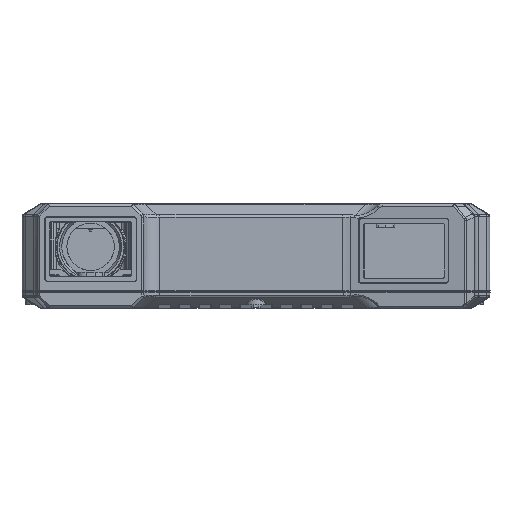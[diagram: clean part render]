
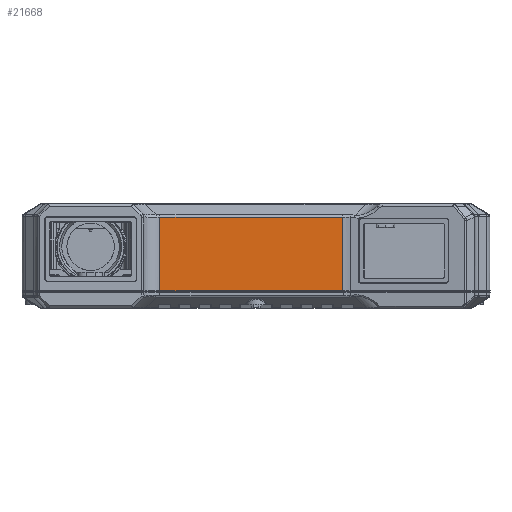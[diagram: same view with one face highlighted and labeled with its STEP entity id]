
A CAD part, left-side view. The second image highlights one B-rep face of the part: STEP entity #21668.
In plain terms, the highlighted planar face has unit normal (-1, 0, 0).
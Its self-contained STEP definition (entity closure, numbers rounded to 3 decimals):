
#3009=DIRECTION('',(0.,-1.,0.));
#3010=VECTOR('',#3009,80.708);
#3011=CARTESIAN_POINT('',(-26.998,-40.021,
-35.346));
#3012=LINE('',#3011,#3010);
#3013=DIRECTION('',(0.,0.,-1.));
#3014=VECTOR('',#3013,32.546);
#3015=CARTESIAN_POINT('',(-26.998,-40.021,
-2.8));
#3016=LINE('',#3015,#3014);
#3017=DIRECTION('',(0.,-1.,0.));
#3018=VECTOR('',#3017,80.707);
#3019=CARTESIAN_POINT('',(-26.998,-40.021,
-2.8));
#3020=LINE('',#3019,#3018);
#3021=DIRECTION('',(0.,0.,1.));
#3022=VECTOR('',#3021,32.552);
#3023=CARTESIAN_POINT('',(-26.998,-120.729,
-35.346));
#3024=LINE('',#3023,#3022);
#15724=CARTESIAN_POINT('',(-26.997,-120.728,
-2.794));
#15726=VERTEX_POINT('',#15724);
#15727=CARTESIAN_POINT('',(-26.998,-40.021,
-2.8));
#15728=VERTEX_POINT('',#15727);
#17247=CARTESIAN_POINT('',(-26.998,-120.729,
-35.346));
#17248=VERTEX_POINT('',#17247);
#17251=CARTESIAN_POINT('',(-26.998,-40.021,
-35.346));
#17252=VERTEX_POINT('',#17251);
#21654=CARTESIAN_POINT('',(-26.998,-32.95,-47.5));
#21655=DIRECTION('',(1.,0.,0.));
#21656=DIRECTION('',(0.,-1.,0.));
#21657=AXIS2_PLACEMENT_3D('',#21654,#21655,#21656);
#21658=PLANE('',#21657);
#21660=ORIENTED_EDGE('',*,*,#21659,.F.);
#21662=ORIENTED_EDGE('',*,*,#21661,.F.);
#21663=ORIENTED_EDGE('',*,*,#21645,.T.);
#21665=ORIENTED_EDGE('',*,*,#21664,.F.);
#21666=EDGE_LOOP('',(#21660,#21662,#21663,#21665));
#21667=FACE_OUTER_BOUND('',#21666,.F.);
#21645=EDGE_CURVE('',#15728,#15726,#3020,.T.);
#21659=EDGE_CURVE('',#17252,#17248,#3012,.T.);
#21661=EDGE_CURVE('',#15728,#17252,#3016,.T.);
#21664=EDGE_CURVE('',#17248,#15726,#3024,.T.);
#21668=ADVANCED_FACE('',(#21667),#21658,.F.);
